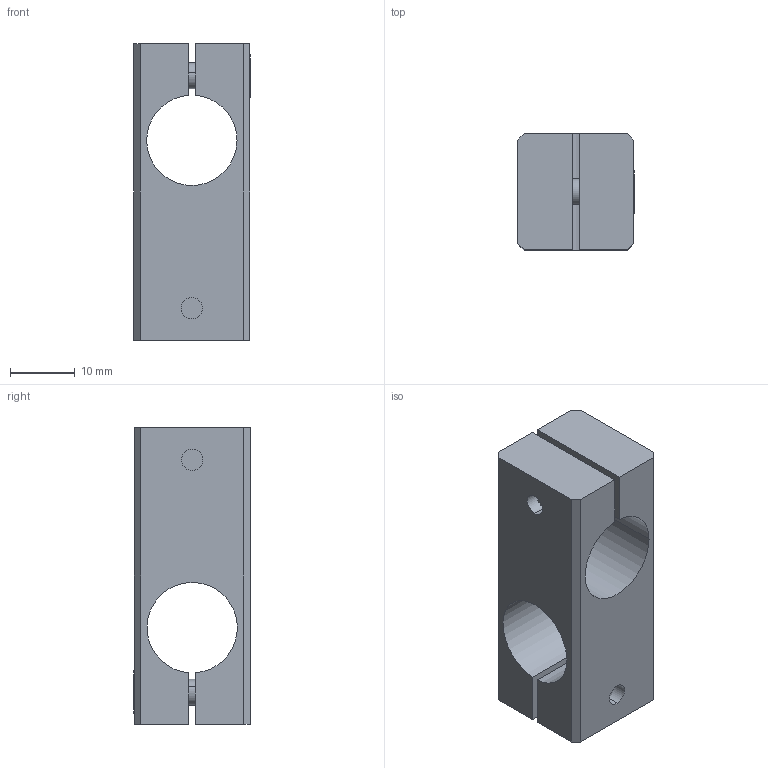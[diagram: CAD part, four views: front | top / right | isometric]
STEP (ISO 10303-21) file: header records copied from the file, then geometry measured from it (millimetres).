
FILE_DESCRIPTION (( 'STEP AP214' ), '1' );
FILE_NAME ('SMBT-1414T.STEP', '2023-01-04T06:56:18', ( 'Windows User' ), ( 'P R C' ), 'SwSTEP 2.0', 'SolidWorks 2018', '' );
FILE_SCHEMA (( 'AUTOMOTIVE_DESIGN' ));
Length unit declared in the file: millimetre
Products named in the file (4): PTS-M4; PTC-M4L12; SMBT-1414; SMBT-1414T
Assembly tree (5 placements, depth 2):
  SMBT-1414T
    SMBT-1414
    PTC-M4L12  x2
    PTS-M4  x2
Bounding box: 18.05 x 18.05 x 46 mm (x, y, z)
Volume: 8816.1 mm3; surface area: 6521.4 mm2
Topology: 5 solids, 5 shells, 410 faces, 1174 edges, 776 vertices
Faces by surface type: plane 358, cylinder 32, cone 20
Entity records: 7608 total; most frequent: DIRECTION 1330, CARTESIAN_POINT 1296, ORIENTED_EDGE 1280, EDGE_CURVE 640, AXIS2_PLACEMENT_3D 456, VERTEX_POINT 422, VECTOR 418, LINE 418
